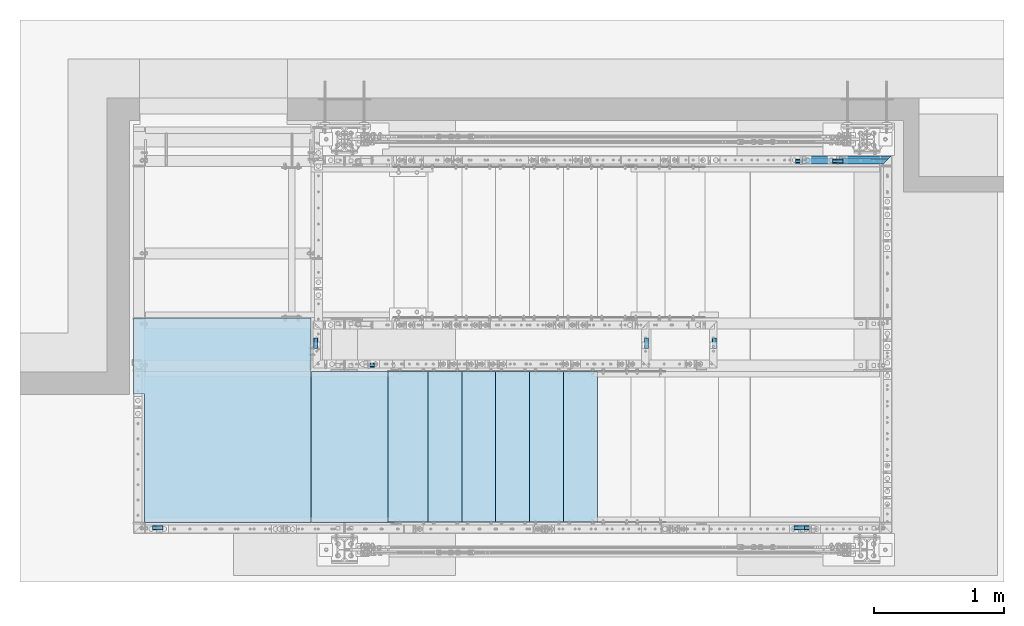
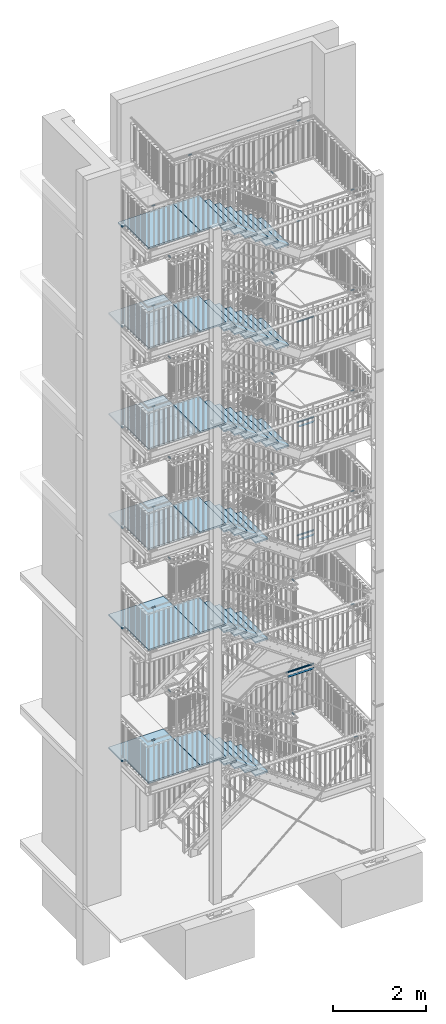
# One storey, part 141 of 825: 42 plates, 37 beams, 8 openings.
"""IFC2X3 building model written with IfcOpenShell, lengths in millimetres."""

from ifc_helpers import new_model, entity, si_unit, converted_unit, frame, origin, origin_with_axes, origin_2d, origin_2d_with_axis, place, context, project, spatial, polyline, rectangle, circle, hollow_circle, outline, extrude, clip, halfspace, material, layer, layer_set, element, save


model = new_model("IFC2X3")

# Units and contexts
model_context = context("Model", 3, precision=1e-09, world=origin_with_axes())
ifc_project = project(units=[si_unit("LENGTHUNIT", "METRE", prefix="MILLI"), si_unit("AREAUNIT", "SQUARE_METRE"), si_unit("VOLUMEUNIT", "CUBIC_METRE"), converted_unit("PLANEANGLEUNIT", "DEGREE", entity("IfcPlaneAngleMeasure", 0.01745329), si_unit("PLANEANGLEUNIT", "RADIAN"), dimensions=[0, 0, 0, 0, 0, 0, 0])], contexts=[model_context])

# Site, building, storey
site_placement = place(None, origin_with_axes())
site = spatial("IfcSite", under=ifc_project, at=site_placement, Name="Cnopf'sche Kinderklinik", CompositionType="ELEMENT")
building_placement = place(site_placement, origin_with_axes())
building = spatial("IfcBuilding", under=site, at=building_placement, Name="Struktur 1", CompositionType="ELEMENT")
storey_placement = place(building_placement, origin_with_axes())
storey = spatial("IfcBuildingStorey", under=building, at=storey_placement, Name="Default Storey", CompositionType="ELEMENT", Elevation=0.0)

# Beams
ifc_material = material(Name="S235JR")
for number, where, z_axis, x_axis in (
    (1, (8307.292260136, 4535.536971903, 6814.8947367), (-1.0, 0.0, 0.0), (0.0, 0.0, -1.0)),
    (2, (8307.292260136, 4535.536971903, 9776.0), (-1.0, 0.0, 0.0), (0.0, 0.0, -1.0)),
    (3, (8307.292260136, 4535.536971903, 12405.5000003), (-1.0, 0.0, 0.0), (0.0, 0.0, -1.0)),
    (4, (8307.292260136, 4535.536971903, 15036.5000001), (-1.0, 0.0, 0.0), (0.0, 0.0, -1.0)),
    (5, (8307.292260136, 4535.536971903, 17664.0000003), (-1.0, 0.0, 0.0), (0.0, 0.0, -1.0)),
    (6, (3382.288520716, 4535.536971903, 4987.0), (-1.0, 0.0, 0.0), (0.0, 0.0, -1.0)),
    (7, (3382.29154585, 4535.536971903, 8460.0), (-1.0, 0.0, 0.0), (0.0, 0.0, -1.0)),
    (8, (3382.29154585, 4535.536971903, 11092.0), (-1.0, 0.0, 0.0), (0.0, 0.0, -1.0)),
    (9, (3382.29154585, 4535.536971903, 13719.0), (-1.0, 0.0, 0.0), (0.0, 0.0, -1.0)),
    (10, (3382.29154585, 4535.536971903, 16354.0), (-1.0, 0.0, 0.0), (0.0, 0.0, -1.0)),
    (11, (3382.29154585, 4535.536971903, 18974.0), (-1.0, 0.0, 0.0), (0.0, 0.0, -1.0)),
    (12, (8318.444225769, 7347.936971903, 3321.0526312), (-1.0, 0.0, 0.0), (0.0, 0.0, -1.0)),
    (13, (8599.213974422, 7347.936971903, 6814.8947367), (-1.0, 0.0, 0.0), (0.0, 0.0, -1.0)),
    (14, (8599.213974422, 7347.936971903, 9776.0), (-1.0, 0.0, 0.0), (0.0, 0.0, -1.0)),
    (15, (8599.213974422, 7347.936971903, 12405.5000003), (-1.0, 0.0, 0.0), (0.0, 0.0, -1.0)),
    (16, (8599.213974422, 7347.936971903, 15036.5000001), (-1.0, 0.0, 0.0), (0.0, 0.0, -1.0)),
    (17, (8599.213974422, 7347.936971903, 17664.0000003), (-1.0, 0.0, 0.0), (0.0, 0.0, -1.0)),
):
    element("IfcBeam", number, at=place(None, frame(where, z_axis=z_axis, x_axis=x_axis)), inside=storey, material=ifc_material, Name="-", ObjectType="-", context=model_context, shape_type="SweptSolid", body=[
        extrude(hollow_circle(Radius=16.85, WallThickness=2.6, at=origin_2d()), origin(), (0.0, 0.0, -1.0), 80.748379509),
    ])
for number, where, z_axis, x_axis in (
    (18, (5086.713902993, 5782.936971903, 18974.0), (-1.0, 0.0, 0.0), (0.0, 0.0, -1.0)),
    (19, (4635.413402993, 5991.736971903, 4987.0), (0.0, -1.0, 0.0), (0.0, 0.0, -1.0)),
    (20, (4635.413402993, 5991.736971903, 8460.0), (0.0, -1.0, 0.0), (0.0, 0.0, -1.0)),
    (21, (4635.413402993, 5991.736971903, 11092.0), (0.0, -1.0, 0.0), (0.0, 0.0, -1.0)),
    (22, (4635.413402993, 5991.736971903, 13719.0), (0.0, -1.0, 0.0), (0.0, 0.0, -1.0)),
    (23, (4635.413402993, 5991.736971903, 16354.0), (0.0, -1.0, 0.0), (0.0, 0.0, -1.0)),
    (24, (7173.622212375, 5991.736971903, 17664.0000003), (0.0, -1.0, 0.0), (0.0, 0.0, -1.0)),
    (25, (7173.622212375, 5991.736971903, 15036.5000001), (0.0, -1.0, 0.0), (0.0, 0.0, -1.0)),
    (26, (7173.622212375, 5991.736971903, 12405.5000003), (0.0, -1.0, 0.0), (0.0, 0.0, -1.0)),
    (27, (7173.622212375, 5991.736971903, 9776.0), (0.0, -1.0, 0.0), (0.0, 0.0, -1.0)),
    (28, (7694.915085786, 5991.736971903, 6814.8947367), (0.0, -1.0, 0.0), (0.0, 0.0, -1.0)),
    (29, (7695.336342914, 5991.736971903, 3321.0526312), (0.0, -1.0, 0.0), (0.0, 0.0, -1.0)),
):
    element("IfcBeam", number, at=place(None, frame(where, z_axis=z_axis, x_axis=x_axis)), inside=storey, material=ifc_material, Name="-", ObjectType="-", context=model_context, shape_type="SweptSolid", body=[
        extrude(hollow_circle(Radius=16.85, WallThickness=2.6, at=origin_2d()), origin(), (0.0, 0.0, 1.0), 80.748379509),
    ])
beam_1_placement = place(None, frame((8387.674109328, 4535.536971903, 3321.0526312), z_axis=(-1.0, 0.0, 0.0), x_axis=(0.0, 0.0, -1.0)))
element("IfcBeam", 30, at=beam_1_placement, inside=storey, material=ifc_material, Name="-", ObjectType="-", context=model_context, shape_type="SweptSolid", body=[
    extrude(hollow_circle(Radius=16.85, WallThickness=2.6, at=origin_2d()), origin(), (0.0, 0.0, -1.0), 80.748379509),
])
beam_2_placement = place(None, frame((8652.213974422, 7347.936971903, 12405.5000003), z_axis=(-1.0, 0.0, 0.0), x_axis=(0.0, 0.0, -1.0)))
element("IfcBeam", 31, at=beam_2_placement, inside=storey, material=ifc_material, Name="Railing_Handrail_Landing#4", ObjectType="Railing_Handrail_Landing#4", context=model_context, shape_type="Clipping", body=[
    clip(extrude(hollow_circle(Radius=21.2, WallThickness=3.2, at=origin_2d()), origin(), (0.0, 0.0, -1.0), 403.099428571), halfspace(frame((12405.5000003, 8180.424480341, 7819.726465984), z_axis=(0.0, -0.707106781, 0.707106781), x_axis=(0.0, 0.707106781, 0.707106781)), True)),
])

# Beam, opening
beam_3_placement = place(None, frame((8652.213974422, 7356.736971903, 9649.8), z_axis=(-1.0, 0.0, 0.0), x_axis=(0.0, 0.0, -1.0)))
beam_3 = element("IfcBeam", 32, at=beam_3_placement, inside=storey, material=ifc_material, Name="Railing_Kneerail_Landing#1005", ObjectType="Railing_Kneerail_Landing#1005", context=model_context, shape_type="Clipping", body=[
    clip(extrude(rectangle(XDim=10.0, YDim=60.0, at=origin_2d()), origin(), (0.0, 0.0, -1.0), 412.511054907), halfspace(frame((9649.8, 8189.224480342, 7819.726465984), z_axis=(0.0, -0.707106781, 0.707106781), x_axis=(0.0, 0.707106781, 0.707106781)), True)),
])
opening_1_placement = place(beam_3_placement, frame((5.5, 0.0, -11.999999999), z_axis=(-1.0, 0.0, 0.0), x_axis=(0.0, 0.0, -1.0)))
element("IfcOpeningElement", 33, at=opening_1_placement, cuts=beam_3, ObjectType="Opening", context=model_context, shape_type="SweptSolid", body=[
    extrude(circle(Radius=5.001, at=origin_2d_with_axis()), origin(), (0.0, 0.0, 1.0), 11.0),
])

# Beam
beam_4_placement = place(None, frame((8652.213974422, 7347.936971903, 9776.0), z_axis=(-1.0, 0.0, 0.0), x_axis=(0.0, 0.0, -1.0)))
element("IfcBeam", 34, at=beam_4_placement, inside=storey, material=ifc_material, Name="Railing_Handrail_Landing#4", ObjectType="Railing_Handrail_Landing#4", context=model_context, shape_type="Clipping", body=[
    clip(extrude(hollow_circle(Radius=21.2, WallThickness=3.2, at=origin_2d()), origin(), (0.0, 0.0, -1.0), 403.099428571), halfspace(frame((9776.0, 8180.424480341, 7819.726465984), z_axis=(0.0, -0.707106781, 0.707106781), x_axis=(0.0, 0.707106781, 0.707106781)), True)),
])

# Beam, opening
beam_5_placement = place(None, frame((8652.213974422, 7356.736971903, 6688.6947367), z_axis=(-1.0, 0.0, 0.0), x_axis=(0.0, 0.0, -1.0)))
beam_5 = element("IfcBeam", 35, at=beam_5_placement, inside=storey, material=ifc_material, Name="Railing_Kneerail_Landing#1005", ObjectType="Railing_Kneerail_Landing#1005", context=model_context, shape_type="Clipping", body=[
    clip(extrude(rectangle(XDim=10.0, YDim=60.0, at=origin_2d()), origin(), (0.0, 0.0, -1.0), 412.511054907), halfspace(frame((6688.6947367, 8189.224480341, 7819.726465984), z_axis=(0.0, -0.707106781, 0.707106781), x_axis=(0.0, 0.707106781, 0.707106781)), True)),
])
opening_2_placement = place(beam_5_placement, frame((5.5, 0.0, -11.999999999), z_axis=(-1.0, 0.0, 0.0), x_axis=(0.0, 0.0, -1.0)))
element("IfcOpeningElement", 36, at=opening_2_placement, cuts=beam_5, ObjectType="Opening", context=model_context, shape_type="SweptSolid", body=[
    extrude(circle(Radius=5.001, at=origin_2d_with_axis()), origin(), (0.0, 0.0, 1.0), 11.0),
])

# Beam
beam_6_placement = place(None, frame((8652.213974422, 7347.936971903, 6814.8947367), z_axis=(-1.0, 0.0, 0.0), x_axis=(0.0, 0.0, -1.0)))
element("IfcBeam", 37, at=beam_6_placement, inside=storey, material=ifc_material, Name="Railing_Handrail_Landing#4", ObjectType="Railing_Handrail_Landing#4", context=model_context, shape_type="Clipping", body=[
    clip(extrude(hollow_circle(Radius=21.2, WallThickness=3.2, at=origin_2d()), origin(), (0.0, 0.0, -1.0), 403.099428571), halfspace(frame((6814.8947367, 8180.424480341, 7819.726465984), z_axis=(0.0, -0.707106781, 0.707106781), x_axis=(0.0, 0.707106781, 0.707106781)), True)),
])

# Beam, opening
beam_7_placement = place(None, frame((8371.444225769, 7356.736971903, 3194.8526312), z_axis=(-1.0, 0.0, 0.0), x_axis=(0.0, 0.0, -1.0)))
beam_7 = element("IfcBeam", 38, at=beam_7_placement, inside=storey, material=ifc_material, Name="Railing_Kneerail_Landing#1004", ObjectType="Railing_Kneerail_Landing#1004", context=model_context, shape_type="Clipping", body=[
    clip(extrude(rectangle(XDim=10.0, YDim=60.0, at=origin_2d()), origin(), (0.0, 0.0, -1.0), 693.28080356), halfspace(frame((3194.8526312, 8189.224480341, 7538.95671733), z_axis=(0.0, -0.707106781, 0.707106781), x_axis=(0.0, 0.707106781, 0.707106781)), True)),
])
opening_3_placement = place(beam_7_placement, frame((5.5, 0.0, -11.999999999), z_axis=(-1.0, 0.0, 0.0), x_axis=(0.0, 0.0, -1.0)))
element("IfcOpeningElement", 39, at=opening_3_placement, cuts=beam_7, ObjectType="Opening", context=model_context, shape_type="SweptSolid", body=[
    extrude(circle(Radius=5.001, at=origin_2d_with_axis()), origin(), (0.0, 0.0, 1.0), 11.0),
])

# Beam
beam_8_placement = place(None, frame((8371.444225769, 7347.936971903, 3321.0526312), z_axis=(-1.0, 0.0, 0.0), x_axis=(0.0, 0.0, -1.0)))
element("IfcBeam", 40, at=beam_8_placement, inside=storey, material=ifc_material, Name="Railing_Handrail_Landing#3", ObjectType="Railing_Handrail_Landing#3", context=model_context, shape_type="Clipping", body=[
    clip(extrude(hollow_circle(Radius=21.2, WallThickness=3.2, at=origin_2d()), origin(), (0.0, 0.0, -1.0), 683.869177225), halfspace(frame((3321.0526312, 8180.424480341, 7538.95671733), z_axis=(0.0, -0.707106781, 0.707106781), x_axis=(0.0, 0.707106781, 0.707106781)), True)),
])

# Plates
ifc_layer = layer(ifc_material, 40.0)
ifc_layer_set = layer_set([ifc_layer], Name="S235JR")
plate_1_placement = place(None, frame((5864.213402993, 5156.736971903, 12016.0714287), z_axis=(0.0, 0.0, 1.0), x_axis=(0.0, -1.0, 0.0)))
element("IfcPlate", 41, at=plate_1_placement, inside=storey, material=ifc_layer_set, Name="Grate_Step#22", ObjectType="Grate_Step#22", context=model_context, shape_type="SweptSolid", body=[
    extrude(outline(polyline([(-577.0, -152.5), (577.0, -152.5), (577.0, 152.5), (-577.0, 152.5), (-577.0, -152.5)])), origin_with_axes(), (0.0, 0.0, 1.0), 40.0),
])
plate_2_placement = place(None, frame((6384.213402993, 5156.736971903, 11640.7857145), z_axis=(0.0, 0.0, 1.0), x_axis=(0.0, -1.0, 0.0)))
element("IfcPlate", 42, at=plate_2_placement, inside=storey, material=ifc_layer_set, Name="Grate_Step#8", ObjectType="Grate_Step#8", context=model_context, shape_type="SweptSolid", body=[
    extrude(outline(polyline([(-577.0, -152.5), (577.0, -152.5), (577.0, 152.5), (-577.0, 152.5), (-577.0, -152.5)])), origin_with_axes(), (0.0, 0.0, 1.0), 40.0),
])
plate_3_placement = place(None, frame((5344.213402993, 5156.736971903, 12391.3571429), z_axis=(0.0, 0.0, 1.0), x_axis=(0.0, -1.0, 0.0)))
element("IfcPlate", 43, at=plate_3_placement, inside=storey, material=ifc_layer_set, Name="Grate_Step#36", ObjectType="Grate_Step#36", context=model_context, shape_type="SweptSolid", body=[
    extrude(outline(polyline([(-577.0, -152.5), (577.0, -152.5), (577.0, 152.5), (-577.0, 152.5), (-577.0, -152.5)])), origin_with_axes(), (0.0, 0.0, 1.0), 40.0),
])
plate_4_placement = place(None, frame((6644.213402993, 5156.736971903, 11453.1428574), z_axis=(0.0, 0.0, 1.0), x_axis=(0.0, -1.0, 0.0)))
element("IfcPlate", 44, at=plate_4_placement, inside=storey, material=ifc_layer_set, Name="Grate_Step#1", ObjectType="Grate_Step#1", context=model_context, shape_type="SweptSolid", body=[
    extrude(outline(polyline([(-577.0, -152.5), (577.0, -152.5), (577.0, 152.5), (-577.0, 152.5), (-577.0, -152.5)])), origin_with_axes(), (0.0, 0.0, 1.0), 40.0),
])
plate_5_placement = place(None, frame((5604.213402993, 5156.736971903, 12203.7142858), z_axis=(0.0, 0.0, 1.0), x_axis=(0.0, -1.0, 0.0)))
element("IfcPlate", 45, at=plate_5_placement, inside=storey, material=ifc_layer_set, Name="Grate_Step#29", ObjectType="Grate_Step#29", context=model_context, shape_type="SweptSolid", body=[
    extrude(outline(polyline([(-577.0, -152.5), (577.0, -152.5), (577.0, 152.5), (-577.0, 152.5), (-577.0, -152.5)])), origin_with_axes(), (0.0, 0.0, 1.0), 40.0),
])
for number, where, z_axis, x_axis, name in (
    (46, (6124.213402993, 5156.736971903, 11828.4285716), (0.0, 0.0, 1.0), (0.0, -1.0, 0.0), "Grate_Step#15"),
    (47, (6124.213402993, 5156.736971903, 14461.1428572), (0.0, 0.0, 1.0), (0.0, -1.0, 0.0), "Grate_Step#15"),
):
    element("IfcPlate", number, at=place(None, frame(where, z_axis=z_axis, x_axis=x_axis)), inside=storey, material=ifc_layer_set, Name=name, ObjectType="Grate_Step#15", context=model_context, shape_type="SweptSolid", body=[
        extrude(outline(polyline([(-577.0, -152.5), (577.0, -152.5), (577.0, 152.5), (-577.0, 152.5), (-577.0, -152.5)])), origin_with_axes(), (0.0, 0.0, 1.0), 40.0),
    ])
plate_6_placement = place(None, frame((5864.213402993, 5156.736971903, 14649.3571429), z_axis=(0.0, 0.0, 1.0), x_axis=(0.0, -1.0, 0.0)))
element("IfcPlate", 48, at=plate_6_placement, inside=storey, material=ifc_layer_set, Name="Grate_Step#22", ObjectType="Grate_Step#22", context=model_context, shape_type="SweptSolid", body=[
    extrude(outline(polyline([(-577.0, -152.5), (577.0, -152.5), (577.0, 152.5), (-577.0, 152.5), (-577.0, -152.5)])), origin_with_axes(), (0.0, 0.0, 1.0), 40.0),
])
plate_7_placement = place(None, frame((6644.213402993, 5156.736971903, 14084.7142858), z_axis=(0.0, 0.0, 1.0), x_axis=(0.0, -1.0, 0.0)))
element("IfcPlate", 49, at=plate_7_placement, inside=storey, material=ifc_layer_set, Name="Grate_Step#1", ObjectType="Grate_Step#1", context=model_context, shape_type="SweptSolid", body=[
    extrude(outline(polyline([(-577.0, -152.5), (577.0, -152.5), (577.0, 152.5), (-577.0, 152.5), (-577.0, -152.5)])), origin_with_axes(), (0.0, 0.0, 1.0), 40.0),
])
plate_8_placement = place(None, frame((5604.213402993, 5156.736971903, 14837.5714286), z_axis=(0.0, 0.0, 1.0), x_axis=(0.0, -1.0, 0.0)))
element("IfcPlate", 50, at=plate_8_placement, inside=storey, material=ifc_layer_set, Name="Grate_Step#29", ObjectType="Grate_Step#29", context=model_context, shape_type="SweptSolid", body=[
    extrude(outline(polyline([(-577.0, -152.5), (577.0, -152.5), (577.0, 152.5), (-577.0, 152.5), (-577.0, -152.5)])), origin_with_axes(), (0.0, 0.0, 1.0), 40.0),
])
plate_9_placement = place(None, frame((5344.213402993, 5156.736971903, 15025.7857143), z_axis=(0.0, 0.0, 1.0), x_axis=(0.0, -1.0, 0.0)))
element("IfcPlate", 51, at=plate_9_placement, inside=storey, material=ifc_layer_set, Name="Grate_Step#36", ObjectType="Grate_Step#36", context=model_context, shape_type="SweptSolid", body=[
    extrude(outline(polyline([(-577.0, -152.5), (577.0, -152.5), (577.0, 152.5), (-577.0, 152.5), (-577.0, -152.5)])), origin_with_axes(), (0.0, 0.0, 1.0), 40.0),
])
plate_10_placement = place(None, frame((6384.213402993, 5156.736971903, 14272.9285715), z_axis=(0.0, 0.0, 1.0), x_axis=(0.0, -1.0, 0.0)))
element("IfcPlate", 52, at=plate_10_placement, inside=storey, material=ifc_layer_set, Name="Grate_Step#8", ObjectType="Grate_Step#8", context=model_context, shape_type="SweptSolid", body=[
    extrude(outline(polyline([(-577.0, -152.5), (577.0, -152.5), (577.0, 152.5), (-577.0, 152.5), (-577.0, -152.5)])), origin_with_axes(), (0.0, 0.0, 1.0), 40.0),
])
plate_11_placement = place(None, frame((6124.213402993, 5156.736971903, 17085.4285716), z_axis=(0.0, 0.0, 1.0), x_axis=(0.0, -1.0, 0.0)))
element("IfcPlate", 53, at=plate_11_placement, inside=storey, material=ifc_layer_set, Name="Grate_Step#15", ObjectType="Grate_Step#15", context=model_context, shape_type="SweptSolid", body=[
    extrude(outline(polyline([(-577.0, -152.5), (577.0, -152.5), (577.0, 152.5), (-577.0, 152.5), (-577.0, -152.5)])), origin_with_axes(), (0.0, 0.0, 1.0), 40.0),
])
plate_12_placement = place(None, frame((5864.213402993, 5156.736971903, 17272.5714287), z_axis=(0.0, 0.0, 1.0), x_axis=(0.0, -1.0, 0.0)))
element("IfcPlate", 54, at=plate_12_placement, inside=storey, material=ifc_layer_set, Name="Grate_Step#22", ObjectType="Grate_Step#22", context=model_context, shape_type="SweptSolid", body=[
    extrude(outline(polyline([(-577.0, -152.5), (577.0, -152.5), (577.0, 152.5), (-577.0, 152.5), (-577.0, -152.5)])), origin_with_axes(), (0.0, 0.0, 1.0), 40.0),
])
plate_13_placement = place(None, frame((6644.213402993, 5156.736971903, 16711.1428574), z_axis=(0.0, 0.0, 1.0), x_axis=(0.0, -1.0, 0.0)))
element("IfcPlate", 55, at=plate_13_placement, inside=storey, material=ifc_layer_set, Name="Grate_Step#1", ObjectType="Grate_Step#1", context=model_context, shape_type="SweptSolid", body=[
    extrude(outline(polyline([(-577.0, -152.5), (577.0, -152.5), (577.0, 152.5), (-577.0, 152.5), (-577.0, -152.5)])), origin_with_axes(), (0.0, 0.0, 1.0), 40.0),
])
plate_14_placement = place(None, frame((5604.213402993, 5156.736971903, 17459.7142858), z_axis=(0.0, 0.0, 1.0), x_axis=(0.0, -1.0, 0.0)))
element("IfcPlate", 56, at=plate_14_placement, inside=storey, material=ifc_layer_set, Name="Grate_Step#29", ObjectType="Grate_Step#29", context=model_context, shape_type="SweptSolid", body=[
    extrude(outline(polyline([(-577.0, -152.5), (577.0, -152.5), (577.0, 152.5), (-577.0, 152.5), (-577.0, -152.5)])), origin_with_axes(), (0.0, 0.0, 1.0), 40.0),
])
plate_15_placement = place(None, frame((5344.213402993, 5156.736971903, 17646.8571429), z_axis=(0.0, 0.0, 1.0), x_axis=(0.0, -1.0, 0.0)))
element("IfcPlate", 57, at=plate_15_placement, inside=storey, material=ifc_layer_set, Name="Grate_Step#36", ObjectType="Grate_Step#36", context=model_context, shape_type="SweptSolid", body=[
    extrude(outline(polyline([(-577.0, -152.5), (577.0, -152.5), (577.0, 152.5), (-577.0, 152.5), (-577.0, -152.5)])), origin_with_axes(), (0.0, 0.0, 1.0), 40.0),
])
plate_16_placement = place(None, frame((6384.213402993, 5156.736971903, 16898.2857145), z_axis=(0.0, 0.0, 1.0), x_axis=(0.0, -1.0, 0.0)))
element("IfcPlate", 58, at=plate_16_placement, inside=storey, material=ifc_layer_set, Name="Grate_Step#8", ObjectType="Grate_Step#8", context=model_context, shape_type="SweptSolid", body=[
    extrude(outline(polyline([(-577.0, -152.5), (577.0, -152.5), (577.0, 152.5), (-577.0, 152.5), (-577.0, -152.5)])), origin_with_axes(), (0.0, 0.0, 1.0), 40.0),
])
plate_17_placement = place(None, frame((6124.213402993, 5156.736971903, 9200.0), z_axis=(0.0, 0.0, 1.0), x_axis=(0.0, -1.0, 0.0)))
element("IfcPlate", 59, at=plate_17_placement, inside=storey, material=ifc_layer_set, Name="Grate_Step#15", ObjectType="Grate_Step#15", context=model_context, shape_type="SweptSolid", body=[
    extrude(outline(polyline([(-577.0, -152.5), (577.0, -152.5), (577.0, 152.5), (-577.0, 152.5), (-577.0, -152.5)])), origin_with_axes(), (0.0, 0.0, 1.0), 40.0),
])
plate_18_placement = place(None, frame((5864.213402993, 5156.736971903, 9388.0), z_axis=(0.0, 0.0, 1.0), x_axis=(0.0, -1.0, 0.0)))
element("IfcPlate", 60, at=plate_18_placement, inside=storey, material=ifc_layer_set, Name="Grate_Step#22", ObjectType="Grate_Step#22", context=model_context, shape_type="SweptSolid", body=[
    extrude(outline(polyline([(-577.0, -152.5), (577.0, -152.5), (577.0, 152.5), (-577.0, 152.5), (-577.0, -152.5)])), origin_with_axes(), (0.0, 0.0, 1.0), 40.0),
])
plate_19_placement = place(None, frame((5604.213402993, 5156.736971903, 9576.0), z_axis=(0.0, 0.0, 1.0), x_axis=(0.0, -1.0, 0.0)))
element("IfcPlate", 61, at=plate_19_placement, inside=storey, material=ifc_layer_set, Name="Grate_Step#29", ObjectType="Grate_Step#29", context=model_context, shape_type="SweptSolid", body=[
    extrude(outline(polyline([(-577.0, -152.5), (577.0, -152.5), (577.0, 152.5), (-577.0, 152.5), (-577.0, -152.5)])), origin_with_axes(), (0.0, 0.0, 1.0), 40.0),
])
plate_20_placement = place(None, frame((5344.213402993, 5156.736971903, 9764.0), z_axis=(0.0, 0.0, 1.0), x_axis=(0.0, -1.0, 0.0)))
element("IfcPlate", 62, at=plate_20_placement, inside=storey, material=ifc_layer_set, Name="Grate_Step#36", ObjectType="Grate_Step#36", context=model_context, shape_type="SweptSolid", body=[
    extrude(outline(polyline([(-577.0, -152.5), (577.0, -152.5), (577.0, 152.5), (-577.0, 152.5), (-577.0, -152.5)])), origin_with_axes(), (0.0, 0.0, 1.0), 40.0),
])
plate_21_placement = place(None, frame((5604.213402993, 5156.736971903, 3476.7894736), z_axis=(0.0, 0.0, 1.0), x_axis=(0.0, -1.0, 0.0)))
element("IfcPlate", 63, at=plate_21_placement, inside=storey, material=ifc_layer_set, Name="Grate_Step#43", ObjectType="Grate_Step#43", context=model_context, shape_type="SweptSolid", body=[
    extrude(outline(polyline([(-577.0, -152.5), (577.0, -152.5), (577.0, 152.5), (-577.0, 152.5), (-577.0, -152.5)])), origin_with_axes(), (0.0, 0.0, 1.0), 40.0),
])
for number, where, z_axis, x_axis, name in (
    (64, (5864.213402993, 5156.736971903, 3291.6842104), (0.0, 0.0, 1.0), (0.0, -1.0, 0.0), "Grate_Step#36"),
    (65, (5864.213402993, 5156.736971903, 6771.6315789), (0.0, 0.0, 1.0), (0.0, -1.0, 0.0), "Grate_Step#36"),
):
    element("IfcPlate", number, at=place(None, frame(where, z_axis=z_axis, x_axis=x_axis)), inside=storey, material=ifc_layer_set, Name=name, ObjectType="Grate_Step#36", context=model_context, shape_type="SweptSolid", body=[
        extrude(outline(polyline([(-577.0, -152.5), (577.0, -152.5), (577.0, 152.5), (-577.0, 152.5), (-577.0, -152.5)])), origin_with_axes(), (0.0, 0.0, 1.0), 40.0),
    ])
plate_22_placement = place(None, frame((6124.213402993, 5156.736971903, 6588.8421052), z_axis=(0.0, 0.0, 1.0), x_axis=(0.0, -1.0, 0.0)))
element("IfcPlate", 66, at=plate_22_placement, inside=storey, material=ifc_layer_set, Name="Grate_Step#29", ObjectType="Grate_Step#29", context=model_context, shape_type="SweptSolid", body=[
    extrude(outline(polyline([(-577.0, -152.5), (577.0, -152.5), (577.0, 152.5), (-577.0, 152.5), (-577.0, -152.5)])), origin_with_axes(), (0.0, 0.0, 1.0), 40.0),
])
for number, where, z_axis, x_axis, name in (
    (67, (5344.213402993, 5156.736971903, 7137.2105263), (0.0, 0.0, 1.0), (0.0, -1.0, 0.0), "Grate_Step#50"),
    (68, (5344.213402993, 5156.736971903, 3661.8947368), (0.0, 0.0, 1.0), (0.0, -1.0, 0.0), "Grate_Step#50"),
):
    element("IfcPlate", number, at=place(None, frame(where, z_axis=z_axis, x_axis=x_axis)), inside=storey, material=ifc_layer_set, Name=name, ObjectType="Grate_Step#50", context=model_context, shape_type="SweptSolid", body=[
        extrude(outline(polyline([(-577.0, -152.5), (577.0, -152.5), (577.0, 152.5), (-577.0, 152.5), (-577.0, -152.5)])), origin_with_axes(), (0.0, 0.0, 1.0), 40.0),
    ])
plate_23_placement = place(None, frame((6124.213402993, 5156.736971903, 3106.5789472), z_axis=(0.0, 0.0, 1.0), x_axis=(0.0, -1.0, 0.0)))
element("IfcPlate", 69, at=plate_23_placement, inside=storey, material=ifc_layer_set, Name="Grate_Step#29", ObjectType="Grate_Step#29", context=model_context, shape_type="SweptSolid", body=[
    extrude(outline(polyline([(-577.0, -152.5), (577.0, -152.5), (577.0, 152.5), (-577.0, 152.5), (-577.0, -152.5)])), origin_with_axes(), (0.0, 0.0, 1.0), 40.0),
])
plate_24_placement = place(None, frame((5604.213402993, 5156.736971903, 6954.4210526), z_axis=(0.0, 0.0, 1.0), x_axis=(0.0, -1.0, 0.0)))
element("IfcPlate", 70, at=plate_24_placement, inside=storey, material=ifc_layer_set, Name="Grate_Step#43", ObjectType="Grate_Step#43", context=model_context, shape_type="SweptSolid", body=[
    extrude(outline(polyline([(-577.0, -152.5), (577.0, -152.5), (577.0, 152.5), (-577.0, 152.5), (-577.0, -152.5)])), origin_with_axes(), (0.0, 0.0, 1.0), 40.0),
])
plate_25_placement = place(None, frame((5236.713402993, 5736.736971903, 17834.0), z_axis=(0.0, 0.0, 1.0), x_axis=(-1.0, 0.0, 0.0)))
element("IfcPlate", 71, at=plate_25_placement, inside=storey, material=ifc_layer_set, Name="TopCoverGrate", ObjectType="TopCoverGrate", context=model_context, shape_type="SweptSolid", body=[
    extrude(outline(polyline([(633.0, 0.0), (633.0, 1160.0), (0.0, 1160.0), (0.0, 0.0), (633.0, 0.0)])), origin_with_axes(), (0.0, 0.0, 1.0), 40.0),
])
plate_26_placement = place(None, frame((5236.713402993, 5736.736971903, 17834.0), z_axis=(0.0, 0.0, 1.0), x_axis=(-1.0, 0.0, 0.0)))
element("IfcPlate", 72, at=plate_26_placement, inside=storey, material=ifc_layer_set, Name="TopCoverGrate", ObjectType="TopCoverGrate", context=model_context, shape_type="SweptSolid", body=[
    extrude(outline(polyline([(635.0, 0.0), (2000.0, 0.0), (2000.0, 174.998), (1914.999, 174.998), (1914.999, 1160.0), (635.0, 1160.0), (635.0, 0.0)])), origin_with_axes(), (0.0, 0.0, 1.0), 40.0),
])

# Plate, opening
plate_27_placement = place(None, frame((5236.713402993, 5736.736971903, 15214.0), z_axis=(0.0, 0.0, 1.0), x_axis=(-1.0, 0.0, 0.0)))
plate_27 = element("IfcPlate", 73, at=plate_27_placement, inside=storey, material=ifc_layer_set, Name="TopCoverGrate", ObjectType="TopCoverGrate", context=model_context, shape_type="SweptSolid", body=[
    extrude(outline(polyline([(635.0, 1160.0), (635.0, -410.0), (2000.0, -410.0), (2000.0, 1160.0), (635.0, 1160.0)])), origin_with_axes(), (0.0, 0.0, 1.0), 40.0),
])
opening_4_placement = place(plate_27_placement, frame((0.0, 0.0, -0.1), z_axis=(0.0, 0.0, 1.0), x_axis=(1.0, 0.0, 0.0)))
element("IfcOpeningElement", 74, at=opening_4_placement, cuts=plate_27, ObjectType="Opening", context=model_context, shape_type="SweptSolid", body=[
    extrude(outline(polyline([(1914.999, 174.998), (2246.057647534, 174.998), (2246.057647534, 1445.257974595), (1914.999, 1445.257974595), (1914.999, 174.998)])), origin(), (0.0, 0.0, 1.0), 40.2),
])

# Plates
plate_28_placement = place(None, frame((5236.713402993, 5736.736971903, 15214.0), z_axis=(0.0, 0.0, 1.0), x_axis=(-1.0, 0.0, 0.0)))
element("IfcPlate", 75, at=plate_28_placement, inside=storey, material=ifc_layer_set, Name="TopCoverGrate", ObjectType="TopCoverGrate", context=model_context, shape_type="SweptSolid", body=[
    extrude(outline(polyline([(633.0, 1160.0), (0.0, 1160.0), (0.0, 0.0), (633.0, 0.0), (633.0, 1160.0)])), origin_with_axes(), (0.0, 0.0, 1.0), 40.0),
])
plate_29_placement = place(None, frame((5236.713402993, 5736.736971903, 12579.0), z_axis=(0.0, 0.0, 1.0), x_axis=(-1.0, 0.0, 0.0)))
element("IfcPlate", 76, at=plate_29_placement, inside=storey, material=ifc_layer_set, Name="TopCoverGrate", ObjectType="TopCoverGrate", context=model_context, shape_type="SweptSolid", body=[
    extrude(outline(polyline([(633.0, 0.0), (633.0, 1160.0), (0.0, 1160.0), (0.0, 0.0), (633.0, 0.0)])), origin_with_axes(), (0.0, 0.0, 1.0), 40.0),
])

# Plate, opening
plate_30_placement = place(None, frame((5236.713402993, 5736.736971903, 12579.0), z_axis=(0.0, 0.0, 1.0), x_axis=(-1.0, 0.0, 0.0)))
plate_30 = element("IfcPlate", 77, at=plate_30_placement, inside=storey, material=ifc_layer_set, Name="TopCoverGrate", ObjectType="TopCoverGrate", context=model_context, shape_type="SweptSolid", body=[
    extrude(outline(polyline([(635.0, -410.0), (2000.0, -410.0), (2000.0, 1160.0), (635.0, 1160.0), (635.0, -410.0)])), origin_with_axes(), (0.0, 0.0, 1.0), 40.0),
])
opening_5_placement = place(plate_30_placement, frame((0.0, 0.0, -0.1), z_axis=(0.0, 0.0, 1.0), x_axis=(1.0, 0.0, 0.0)))
element("IfcOpeningElement", 78, at=opening_5_placement, cuts=plate_30, ObjectType="Opening", context=model_context, shape_type="SweptSolid", body=[
    extrude(outline(polyline([(1914.999, 174.998), (2168.255794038, 174.998), (2168.255794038, 1438.11008275), (1914.999, 1438.11008275), (1914.999, 174.998)])), origin(), (0.0, 0.0, 1.0), 40.2),
])

# Plate
plate_31_placement = place(None, frame((5236.713402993, 5736.736971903, 9952.0), z_axis=(0.0, 0.0, 1.0), x_axis=(-1.0, 0.0, 0.0)))
element("IfcPlate", 79, at=plate_31_placement, inside=storey, material=ifc_layer_set, Name="TopCoverGrate", ObjectType="TopCoverGrate", context=model_context, shape_type="SweptSolid", body=[
    extrude(outline(polyline([(633.0, 0.0), (633.0, 1160.0), (0.0, 1160.0), (0.0, 0.0), (633.0, 0.0)])), origin_with_axes(), (0.0, 0.0, 1.0), 40.0),
])

# Plate, opening
plate_32_placement = place(None, frame((5236.713402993, 5736.736971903, 9952.0), z_axis=(0.0, 0.0, 1.0), x_axis=(-1.0, 0.0, 0.0)))
plate_32 = element("IfcPlate", 80, at=plate_32_placement, inside=storey, material=ifc_layer_set, Name="TopCoverGrate", ObjectType="TopCoverGrate", context=model_context, shape_type="SweptSolid", body=[
    extrude(outline(polyline([(635.0, -410.0), (2000.0, -410.0), (2000.0, 1160.0), (635.0, 1160.0), (635.0, -410.0)])), origin_with_axes(), (0.0, 0.0, 1.0), 40.0),
])
opening_6_placement = place(plate_32_placement, frame((0.0, 0.0, -0.1), z_axis=(0.0, 0.0, 1.0), x_axis=(1.0, 0.0, 0.0)))
element("IfcOpeningElement", 81, at=opening_6_placement, cuts=plate_32, ObjectType="Opening", context=model_context, shape_type="SweptSolid", body=[
    extrude(outline(polyline([(1914.999, 174.998), (2156.474362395, 174.998), (2156.474362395, 1320.832230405), (1914.999, 1320.832230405), (1914.999, 174.998)])), origin(), (0.0, 0.0, 1.0), 40.2),
])

# Plate
plate_33_placement = place(None, frame((5236.713402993, 5736.736971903, 7320.0), z_axis=(0.0, 0.0, 1.0), x_axis=(-1.0, 0.0, 0.0)))
element("IfcPlate", 82, at=plate_33_placement, inside=storey, material=ifc_layer_set, Name="TopCoverGrate", ObjectType="TopCoverGrate", context=model_context, shape_type="SweptSolid", body=[
    extrude(outline(polyline([(633.0, 0.0), (633.0, 1160.0), (0.0, 1160.0), (0.0, 0.0), (633.0, 0.0)])), origin_with_axes(), (0.0, 0.0, 1.0), 40.0),
])

# Plate, opening
plate_34_placement = place(None, frame((5236.713402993, 5736.736971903, 7320.0), z_axis=(0.0, 0.0, 1.0), x_axis=(-1.0, 0.0, 0.0)))
plate_34 = element("IfcPlate", 83, at=plate_34_placement, inside=storey, material=ifc_layer_set, Name="TopCoverGrate", ObjectType="TopCoverGrate", context=model_context, shape_type="SweptSolid", body=[
    extrude(outline(polyline([(635.0, -410.0), (2000.0, -410.0), (2000.0, 1160.0), (635.0, 1160.0), (635.0, -410.0)])), origin_with_axes(), (0.0, 0.0, 1.0), 40.0),
])
opening_7_placement = place(plate_34_placement, frame((0.0, 0.0, -0.1), z_axis=(0.0, 0.0, 1.0), x_axis=(1.0, 0.0, 0.0)))
element("IfcOpeningElement", 84, at=opening_7_placement, cuts=plate_34, ObjectType="Opening", context=model_context, shape_type="SweptSolid", body=[
    extrude(outline(polyline([(1914.999, 174.998), (2204.215042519, 174.998), (2204.215042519, 1396.888781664), (1914.999, 1396.888781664), (1914.999, 174.998)])), origin(), (0.0, 0.0, 1.0), 40.2),
])

# Plate
plate_35_placement = place(None, frame((5236.713402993, 5736.736971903, 3847.0), z_axis=(0.0, 0.0, 1.0), x_axis=(-1.0, 0.0, 0.0)))
element("IfcPlate", 85, at=plate_35_placement, inside=storey, material=ifc_layer_set, Name="TopCoverGrate", ObjectType="TopCoverGrate", context=model_context, shape_type="SweptSolid", body=[
    extrude(outline(polyline([(633.0, 0.0), (633.0, 1160.0), (0.0, 1160.0), (0.0, 0.0), (633.0, 0.0)])), origin_with_axes(), (0.0, 0.0, 1.0), 40.0),
])

# Plate, opening
plate_36_placement = place(None, frame((5236.713402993, 5736.736971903, 3847.0), z_axis=(0.0, 0.0, 1.0), x_axis=(-1.0, 0.0, 0.0)))
plate_36 = element("IfcPlate", 86, at=plate_36_placement, inside=storey, material=ifc_layer_set, Name="TopCoverGrate", ObjectType="TopCoverGrate", context=model_context, shape_type="SweptSolid", body=[
    extrude(outline(polyline([(635.0, -410.0), (2000.0, -410.0), (2000.0, 1160.0), (635.0, 1160.0), (635.0, -410.0)])), origin_with_axes(), (0.0, 0.0, 1.0), 40.0),
])
opening_8_placement = place(plate_36_placement, frame((0.0, 0.0, -0.1), z_axis=(0.0, 0.0, 1.0), x_axis=(1.0, 0.0, 0.0)))
element("IfcOpeningElement", 87, at=opening_8_placement, cuts=plate_36, ObjectType="Opening", context=model_context, shape_type="SweptSolid", body=[
    extrude(outline(polyline([(1914.999, 174.998), (2203.687541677, 174.998), (2203.687541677, 1310.690591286), (1914.999, 1310.690591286), (1914.999, 174.998)])), origin(), (0.0, 0.0, 1.0), 40.2),
])

save(model, "model.ifc")
